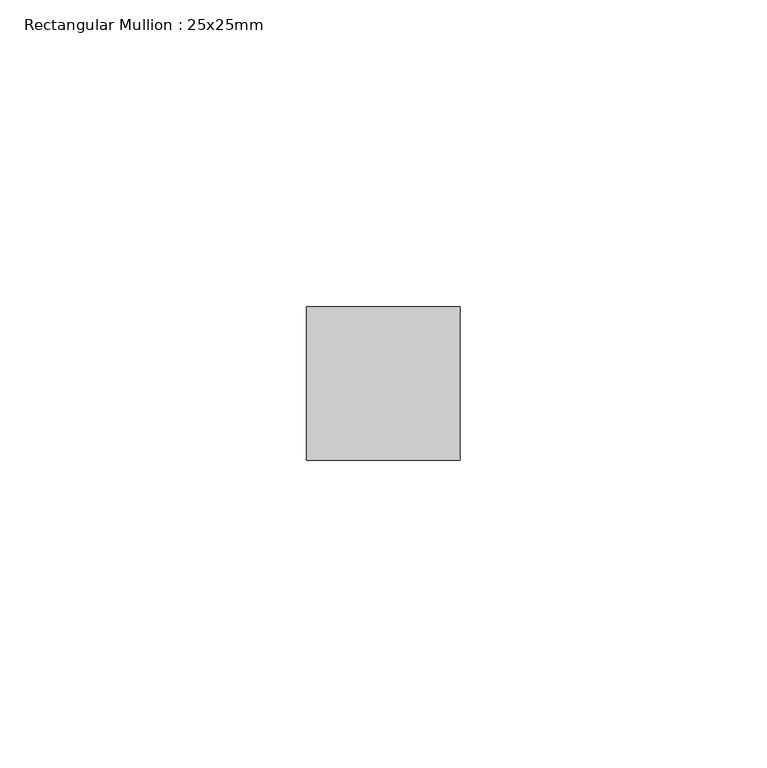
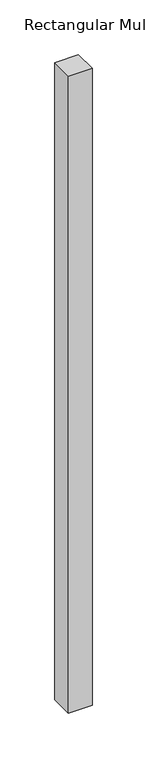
"""IFC4 building model written with IfcOpenShell, lengths in millimetres: member geometry, Rectangular Mullion : 25x25mm."""

from ifc_helpers import new_model, si_unit, frame, origin, place, context, project, spatial, polyline, outline, extrude, source, transform, mapped, element, save


def rectangular_mullion_25x25mm_8b97148a(model_context):
    return source(origin(), model_context, "Body", "SweptSolid", [
        extrude(outline(polyline([(0.0, 0.5), (0.0, -24.5), (-25.0, -24.5), (-25.0, 0.5), (0.0, 0.5)])), frame((0.0, 0.0, -710.0), z_axis=(0.0, 0.0, 1.0), x_axis=(1.0, 0.0, 0.0)), (0.0, 0.0, 1.0), 710.0),
    ])


if __name__ == "__main__":
    model = new_model("IFC4")
    model_context = context("Model", 3, world=origin())
    ifc_project = project(units=[si_unit("LENGTHUNIT", "METRE", prefix="MILLI")], contexts=[model_context])
    site = spatial("IfcSite", under=ifc_project)
    building = spatial("IfcBuilding", under=site)
    placement = place(None, origin())
    rectangular_mullion_25x25mm_shape = rectangular_mullion_25x25mm_8b97148a(model_context)
    element("IfcMember", 1, ObjectType="Rectangular Mullion : 25x25mm", at=placement, inside=building, context=model_context, shape_type="MappedRepresentation", body=[
        mapped(rectangular_mullion_25x25mm_shape, transform((0.0, 0.0, 0.0), x_axis=(1.0, 0.0, 0.0), y_axis=(0.0, 1.0, 0.0), z_axis=(0.0, 0.0, 1.0))),
    ])
    save(model, "model.ifc")
